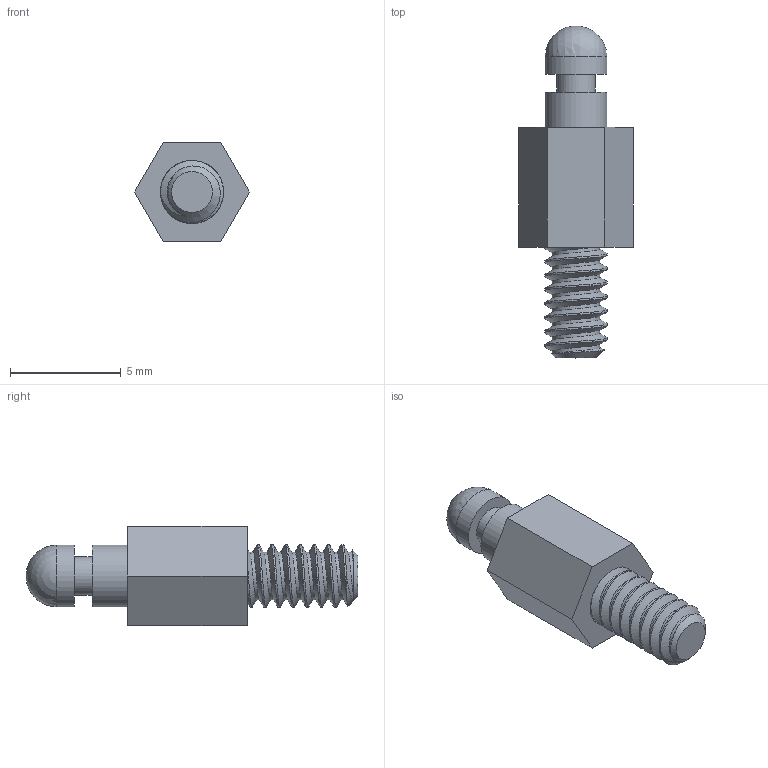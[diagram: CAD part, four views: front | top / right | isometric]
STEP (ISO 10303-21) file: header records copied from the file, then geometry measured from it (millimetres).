
FILE_DESCRIPTION (( 'STEP AP203' ), '1' );
FILE_NAME ('QLOCKPOST440-1.STEP', '2026-06-16T12:29:26', ( '' ), ( '' ), 'SwSTEP 2.0', 'SolidWorks 2020', '' );
FILE_SCHEMA (( 'CONFIG_CONTROL_DESIGN' ));
Length unit declared in the file: millimetre
Products named in the file (1): QLOCKPOST440-1
Bounding box: 5.2 x 15 x 4.5 mm (x, y, z)
Volume: 139.2 mm3; surface area: 253.7 mm2
Topology: 1 solids, 1 shells, 23 faces, 54 edges, 35 vertices
Faces by surface type: plane 13, bspline 4, cylinder 4, sphere 1, cone 1
Full cylindrical faces by diameter (mm): 1.75 x1, 2.8 x2
Entity records: 3341 total; most frequent: CARTESIAN_POINT 2829, ORIENTED_EDGE 88, DIRECTION 80, EDGE_CURVE 44, VERTEX_POINT 31, AXIS2_PLACEMENT_3D 31, EDGE_LOOP 31, FACE_OUTER_BOUND 26
